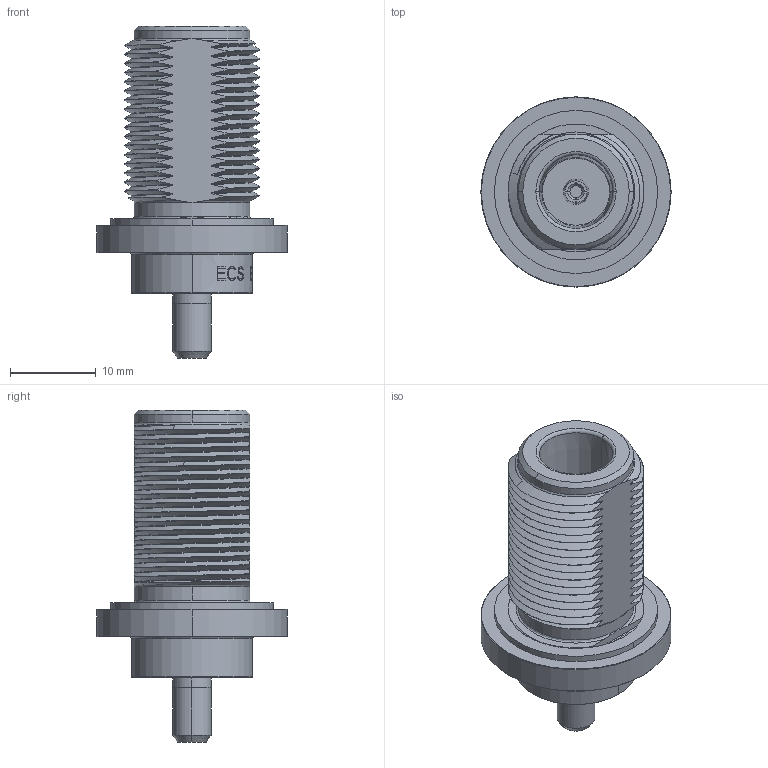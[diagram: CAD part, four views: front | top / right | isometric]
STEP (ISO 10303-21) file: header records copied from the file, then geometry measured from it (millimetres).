
FILE_DESCRIPTION((''),'2;1');
FILE_NAME('BNS3522','2019-12-05T18:31:39',('Anthony.Gnas'),('Carlisle Interconnect Technologies'),'CREO PARAMETRIC BY PTC INC, 2017260','CREO PARAMETRIC BY PTC INC, 2017260','');
FILE_SCHEMA(('AUTOMOTIVE_DESIGN { 1 0 10303 214 1 1 1 1 }'));
Length unit declared in the file: inch
Products named in the file (1): BNS3522
Bounding box: 22.23 x 22.23 x 38.79 mm (x, y, z)
Volume: 5530.2 mm3; surface area: 3259.7 mm2
Topology: 1 solids, 1 shells, 619 faces, 1750 edges, 1155 vertices
Faces by surface type: bspline 367, plane 136, cylinder 69, cone 32, torus 15
Entity records: 37172 total; most frequent: CARTESIAN_POINT 18067, ORIENTED_EDGE 3500, DIRECTION 2451, EDGE_CURVE 1750, VERTEX_POINT 1155, AXIS2_PLACEMENT_3D 903, CIRCLE 651, VECTOR 645
